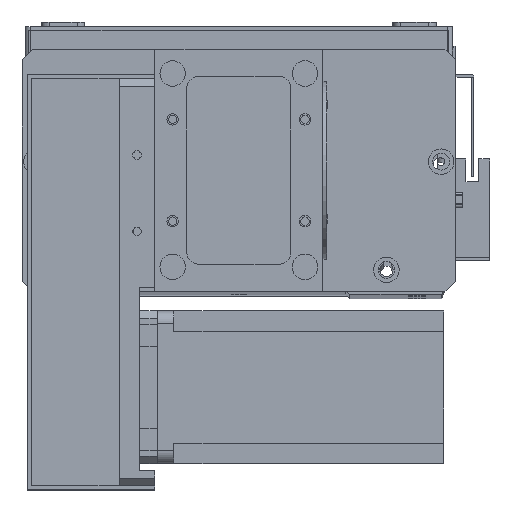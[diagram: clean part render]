
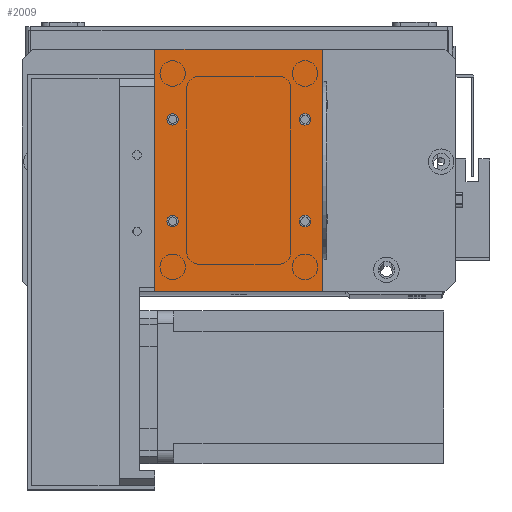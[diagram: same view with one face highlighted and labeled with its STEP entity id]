
A CAD part, top view. The second image highlights one B-rep face of the part: STEP entity #2009.
In plain terms, the highlighted planar face has unit normal (0, 0, 1).
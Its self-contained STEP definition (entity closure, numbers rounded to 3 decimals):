
#112 = AXIS2_PLACEMENT_3D ( 'NONE', #19157, #4418, #21591 ) ;
#183 = DIRECTION ( 'NONE',  ( 0., 0., 1. ) ) ;
#268 = DIRECTION ( 'NONE',  ( 0., 0., 1. ) ) ;
#326 = VECTOR ( 'NONE', #966, 1000. ) ;
#348 = LINE ( 'NONE', #2311, #19237 ) ;
#778 = AXIS2_PLACEMENT_3D ( 'NONE', #17875, #3111, #20332 ) ;
#966 = DIRECTION ( 'NONE',  ( 1., 0., 0. ) ) ;
#2009 = ADVANCED_FACE ( 'NONE', ( #29024, #23273, #10226, #22498, #15992 ), #25337, .F. ) ;
#2206 = ORIENTED_EDGE ( 'NONE', *, *, #9346, .T. ) ;
#2311 = CARTESIAN_POINT ( 'NONE',  ( 66., 0., 2. ) ) ;
#2353 = ORIENTED_EDGE ( 'NONE', *, *, #27840, .T. ) ;
#2625 = VERTEX_POINT ( 'NONE', #19298 ) ;
#2811 = ORIENTED_EDGE ( 'NONE', *, *, #15149, .F. ) ;
#3111 = DIRECTION ( 'NONE',  ( 0., 0., 1. ) ) ;
#3514 = LINE ( 'NONE', #4670, #9321 ) ;
#3983 = CARTESIAN_POINT ( 'NONE',  ( 0., 0., 2. ) ) ;
#4272 = CARTESIAN_POINT ( 'NONE',  ( 61.25, 27.5, 2. ) ) ;
#4418 = DIRECTION ( 'NONE',  ( 0., 0., 1. ) ) ;
#4670 = CARTESIAN_POINT ( 'NONE',  ( 0., 0., 2. ) ) ;
#5168 = VERTEX_POINT ( 'NONE', #20614 ) ;
#5171 = VERTEX_POINT ( 'NONE', #5884 ) ;
#5493 = CARTESIAN_POINT ( 'NONE',  ( 59., 27.5, 2. ) ) ;
#5528 = EDGE_LOOP ( 'NONE', ( #2811, #14425 ) ) ;
#5884 = CARTESIAN_POINT ( 'NONE',  ( 61.25, 67.5, 2. ) ) ;
#6336 = ORIENTED_EDGE ( 'NONE', *, *, #18206, .F. ) ;
#7974 = DIRECTION ( 'NONE',  ( 1., 0., 0. ) ) ;
#8291 = VERTEX_POINT ( 'NONE', #26344 ) ;
#8356 = EDGE_CURVE ( 'NONE', #9107, #9525, #19268, .T. ) ;
#8710 = CARTESIAN_POINT ( 'NONE',  ( 0., 95., 2. ) ) ;
#9107 = VERTEX_POINT ( 'NONE', #14900 ) ;
#9134 = AXIS2_PLACEMENT_3D ( 'NONE', #14941, #25017, #10117 ) ;
#9321 = VECTOR ( 'NONE', #24305, 1000. ) ;
#9346 = EDGE_CURVE ( 'NONE', #19553, #21468, #26485, .T. ) ;
#9516 = CARTESIAN_POINT ( 'NONE',  ( 59., 67.5, 2. ) ) ;
#9525 = VERTEX_POINT ( 'NONE', #28663 ) ;
#9605 = ORIENTED_EDGE ( 'NONE', *, *, #26228, .F. ) ;
#10117 = DIRECTION ( 'NONE',  ( -1., 0., 0. ) ) ;
#10226 = FACE_BOUND ( 'NONE', #15845, .T. ) ;
#10317 = AXIS2_PLACEMENT_3D ( 'NONE', #26857, #12191, #29312 ) ;
#10636 = EDGE_CURVE ( 'NONE', #2625, #8291, #15649, .T. ) ;
#10878 = CARTESIAN_POINT ( 'NONE',  ( 0., 0., 2. ) ) ;
#11188 = ORIENTED_EDGE ( 'NONE', *, *, #18687, .F. ) ;
#12009 = DIRECTION ( 'NONE',  ( 1., 0., 0. ) ) ;
#12083 = CARTESIAN_POINT ( 'NONE',  ( 66., 0., 2. ) ) ;
#12191 = DIRECTION ( 'NONE',  ( 0., 0., 1. ) ) ;
#12263 = CIRCLE ( 'NONE', #778, 2.25 ) ;
#12544 = EDGE_LOOP ( 'NONE', ( #19965, #11188 ) ) ;
#13146 = DIRECTION ( 'NONE',  ( 0., 0., 1. ) ) ;
#13749 = CARTESIAN_POINT ( 'NONE',  ( 4.75, 67.5, 2. ) ) ;
#13864 = AXIS2_PLACEMENT_3D ( 'NONE', #9516, #26674, #12009 ) ;
#14425 = ORIENTED_EDGE ( 'NONE', *, *, #8356, .F. ) ;
#14791 = EDGE_LOOP ( 'NONE', ( #9605, #6336 ) ) ;
#14900 = CARTESIAN_POINT ( 'NONE',  ( 4.75, 27.5, 2. ) ) ;
#14917 = CARTESIAN_POINT ( 'NONE',  ( 59., 27.5, 2. ) ) ;
#14941 = CARTESIAN_POINT ( 'NONE',  ( 0., 0., 2. ) ) ;
#14995 = CARTESIAN_POINT ( 'NONE',  ( 7., 67.5, 2. ) ) ;
#15149 = EDGE_CURVE ( 'NONE', #9525, #9107, #12263, .T. ) ;
#15649 = LINE ( 'NONE', #8710, #27907 ) ;
#15784 = AXIS2_PLACEMENT_3D ( 'NONE', #5493, #22657, #7974 ) ;
#15845 = EDGE_LOOP ( 'NONE', ( #21638, #20532 ) ) ;
#15992 = FACE_OUTER_BOUND ( 'NONE', #19499, .T. ) ;
#17039 = DIRECTION ( 'NONE',  ( 0., 1., 0. ) ) ;
#17391 = CIRCLE ( 'NONE', #112, 2.25 ) ;
#17393 = DIRECTION ( 'NONE',  ( 1., 0., 0. ) ) ;
#17481 = DIRECTION ( 'NONE',  ( 1., 0., 0. ) ) ;
#17875 = CARTESIAN_POINT ( 'NONE',  ( 7., 27.5, 2. ) ) ;
#18206 = EDGE_CURVE ( 'NONE', #24375, #23324, #27406, .T. ) ;
#18687 = EDGE_CURVE ( 'NONE', #24782, #5171, #21627, .T. ) ;
#19151 = EDGE_CURVE ( 'NONE', #8291, #19553, #3514, .T. ) ;
#19157 = CARTESIAN_POINT ( 'NONE',  ( 7., 67.5, 2. ) ) ;
#19237 = VECTOR ( 'NONE', #17039, 1000. ) ;
#19268 = CIRCLE ( 'NONE', #10317, 2.25 ) ;
#19298 = CARTESIAN_POINT ( 'NONE',  ( 66., 95., 2. ) ) ;
#19499 = EDGE_LOOP ( 'NONE', ( #25640, #2206, #2353, #25361 ) ) ;
#19553 = VERTEX_POINT ( 'NONE', #3983 ) ;
#19965 = ORIENTED_EDGE ( 'NONE', *, *, #25986, .F. ) ;
#20332 = DIRECTION ( 'NONE',  ( 1., 0., 0. ) ) ;
#20532 = ORIENTED_EDGE ( 'NONE', *, *, #31594, .F. ) ;
#20614 = CARTESIAN_POINT ( 'NONE',  ( 56.75, 27.5, 2. ) ) ;
#21468 = VERTEX_POINT ( 'NONE', #12083 ) ;
#21591 = DIRECTION ( 'NONE',  ( 1., 0., 0. ) ) ;
#21627 = CIRCLE ( 'NONE', #13864, 2.25 ) ;
#21638 = ORIENTED_EDGE ( 'NONE', *, *, #21869, .F. ) ;
#21869 = EDGE_CURVE ( 'NONE', #24472, #5168, #31789, .T. ) ;
#22498 = FACE_BOUND ( 'NONE', #5528, .T. ) ;
#22657 = DIRECTION ( 'NONE',  ( 0., 0., 1. ) ) ;
#23273 = FACE_BOUND ( 'NONE', #12544, .T. ) ;
#23324 = VERTEX_POINT ( 'NONE', #25479 ) ;
#23414 = DIRECTION ( 'NONE',  ( -1., 0., 0. ) ) ;
#24305 = DIRECTION ( 'NONE',  ( 0., -1., 0. ) ) ;
#24375 = VERTEX_POINT ( 'NONE', #13749 ) ;
#24472 = VERTEX_POINT ( 'NONE', #4272 ) ;
#24782 = VERTEX_POINT ( 'NONE', #27648 ) ;
#25017 = DIRECTION ( 'NONE',  ( 0., 0., -1. ) ) ;
#25337 = PLANE ( 'NONE',  #9134 ) ;
#25361 = ORIENTED_EDGE ( 'NONE', *, *, #10636, .T. ) ;
#25479 = CARTESIAN_POINT ( 'NONE',  ( 9.25, 67.5, 2. ) ) ;
#25640 = ORIENTED_EDGE ( 'NONE', *, *, #19151, .T. ) ;
#25986 = EDGE_CURVE ( 'NONE', #5171, #24782, #30807, .T. ) ;
#26224 = AXIS2_PLACEMENT_3D ( 'NONE', #14917, #183, #17393 ) ;
#26228 = EDGE_CURVE ( 'NONE', #23324, #24375, #17391, .T. ) ;
#26344 = CARTESIAN_POINT ( 'NONE',  ( 0., 95., 2. ) ) ;
#26485 = LINE ( 'NONE', #10878, #326 ) ;
#26586 = AXIS2_PLACEMENT_3D ( 'NONE', #14995, #268, #17481 ) ;
#26674 = DIRECTION ( 'NONE',  ( 0., 0., 1. ) ) ;
#26857 = CARTESIAN_POINT ( 'NONE',  ( 7., 27.5, 2. ) ) ;
#27406 = CIRCLE ( 'NONE', #26586, 2.25 ) ;
#27648 = CARTESIAN_POINT ( 'NONE',  ( 56.75, 67.5, 2. ) ) ;
#27817 = CARTESIAN_POINT ( 'NONE',  ( 59., 67.5, 2. ) ) ;
#27840 = EDGE_CURVE ( 'NONE', #21468, #2625, #348, .T. ) ;
#27907 = VECTOR ( 'NONE', #23414, 1000. ) ;
#28663 = CARTESIAN_POINT ( 'NONE',  ( 9.25, 27.5, 2. ) ) ;
#29024 = FACE_BOUND ( 'NONE', #14791, .T. ) ;
#29312 = DIRECTION ( 'NONE',  ( 1., 0., 0. ) ) ;
#29322 = AXIS2_PLACEMENT_3D ( 'NONE', #27817, #13146, #30269 ) ;
#30269 = DIRECTION ( 'NONE',  ( 1., 0., 0. ) ) ;
#30608 = CIRCLE ( 'NONE', #26224, 2.25 ) ;
#30807 = CIRCLE ( 'NONE', #29322, 2.25 ) ;
#31594 = EDGE_CURVE ( 'NONE', #5168, #24472, #30608, .T. ) ;
#31789 = CIRCLE ( 'NONE', #15784, 2.25 ) ;
